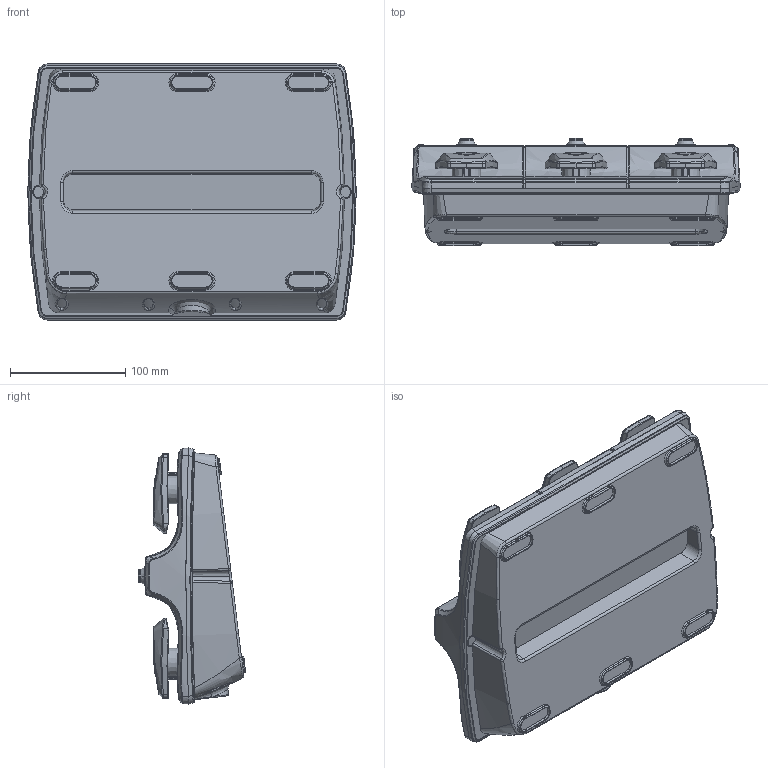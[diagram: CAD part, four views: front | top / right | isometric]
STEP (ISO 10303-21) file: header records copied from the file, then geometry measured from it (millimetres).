
FILE_DESCRIPTION (( 'STEP AP203' ), '1' );
FILE_NAME ('TFS2.STEP', '2017-06-15T06:39:38', ( '' ), ( '' ), 'SwSTEP 2.0', 'SolidWorks 2015', '' );
FILE_SCHEMA (( 'CONFIG_CONTROL_DESIGN' ));
Products named in the file (1): TFS2
Bounding box: 284.99 x 93.01 x 222.28 mm (x, y, z)
Surface area: 353725 mm2 (no closed solid volume)
Topology: 0 solids, 52 shells, 1478 faces, 3630 edges, 2275 vertices
Faces by surface type: bspline 767, cylinder 282, plane 241, cone 188
Entity records: 136328 total; most frequent: CARTESIAN_POINT 108235, ORIENTED_EDGE 7200, DIRECTION 3713, EDGE_CURVE 3602, VERTEX_POINT 2275, B_SPLINE_CURVE_WITH_KNOTS 1765, EDGE_LOOP 1538, ADVANCED_FACE 1478
